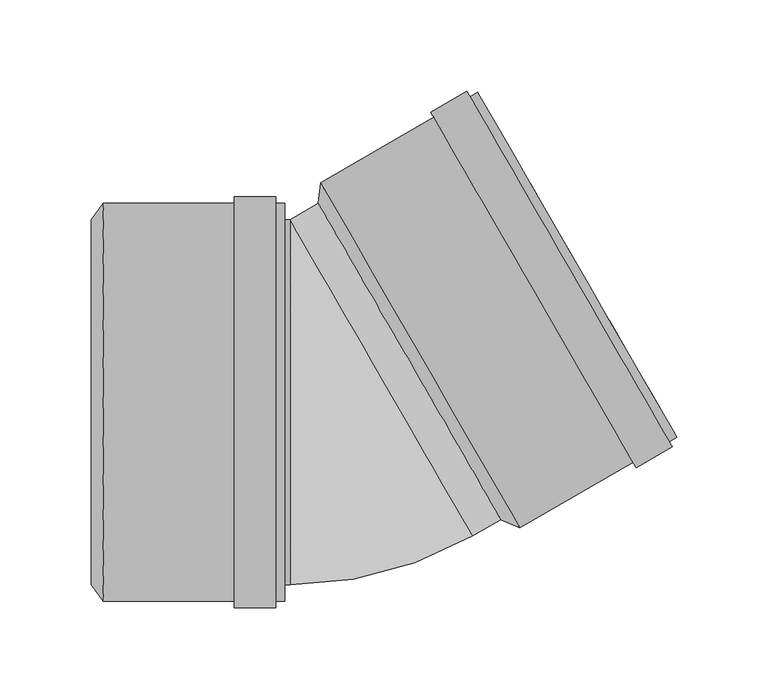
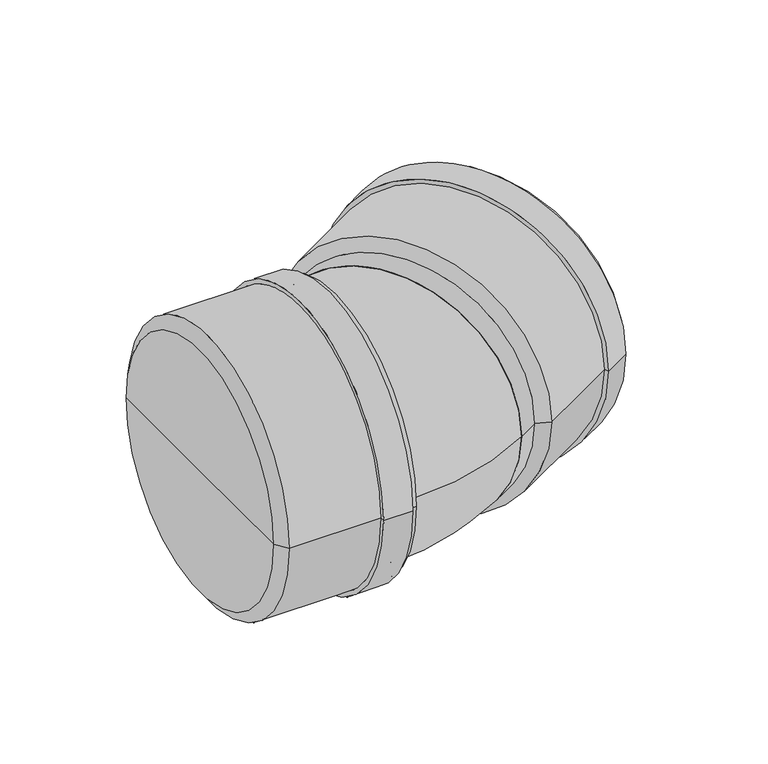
"""IFC4 building model written with IfcOpenShell, lengths in millimetres: pipe fitting geometry, pf_KGB : pf_KGB."""

import ifcopenshell
import ifcopenshell.guid

model = None  # the IFC model being written
_history = None  # IfcOwnerHistory: only IFC2X3 demands one
_inside = {}  # id of a spatial element -> (the spatial element, [elements in it])
_under = {}  # id of a project, library or spatial element -> (it, [spatial elements below it])
_declared = {}  # id of a project -> (the project, [libraries it declares])
_typed = {}  # id of a type object -> (the type object, [elements of that type])
_made_of = {}  # id of a material, layer set ... -> (it, [elements and type objects made of it])


def new_model(schema):
    """Start an empty IFC model of exactly this schema.

    Asked for "IFC4X3", IfcOpenShell would pick the latest addendum, in which some entities
    have other attributes; the version numbers below select the first issue.
    IFC2X3 requires an IfcOwnerHistory on every rooted entity: one is made here for all.
    """
    global model, _history
    if schema == "IFC4X3":
        model = ifcopenshell.file(schema_version=(4, 3, 0, 0))
    else:
        model = ifcopenshell.file(schema=schema)
    _inside.clear()
    _under.clear()
    _declared.clear()
    _typed.clear()
    _made_of.clear()
    _history = None
    if model.schema == "IFC2X3":
        org = make("IfcOrganization", Name="unknown")
        user = make(
            "IfcPersonAndOrganization",
            ThePerson=make("IfcPerson", FamilyName="unknown"),
            TheOrganization=org,
        )
        app = make(
            "IfcApplication",
            ApplicationDeveloper=org,
            Version="unknown",
            ApplicationFullName="unknown",
            ApplicationIdentifier="unknown",
        )
        _history = make(
            "IfcOwnerHistory",
            OwningUser=user,
            OwningApplication=app,
            ChangeAction="ADDED",
            CreationDate=0,
        )
    return model


def make(cls, **values):
    """One entity of the class cls with the attributes given. An attribute that is None is left unset."""
    return model.create_entity(
        cls, **{name: value for name, value in values.items() if value is not None}
    )


def rooted(cls, **values):
    """An entity with a GlobalId (a new one), such as an element, a storey or a relation."""
    return make(cls, GlobalId=ifcopenshell.guid.new(), OwnerHistory=_history, **values)


def si_unit(unit_type, name, prefix=None):
    """IfcSIUnit, for example si_unit("LENGTHUNIT", "METRE", prefix="MILLI")."""
    return make("IfcSIUnit", UnitType=unit_type, Prefix=prefix, Name=name)


def assignment(units):
    """IfcUnitAssignment: the units of a project."""
    return None if units is None else make("IfcUnitAssignment", Units=units)


def point(xyz):
    """IfcCartesianPoint."""
    return None if xyz is None else make("IfcCartesianPoint", Coordinates=xyz)


def direction(xyz):
    """IfcDirection."""
    return None if xyz is None else make("IfcDirection", DirectionRatios=xyz)


def frame(location, z_axis=None, x_axis=None):
    """IfcAxis2Placement3D, a coordinate frame: its origin and axes. An axis left out is left unset."""
    return make(
        "IfcAxis2Placement3D",
        Location=point(location),
        Axis=direction(z_axis),
        RefDirection=direction(x_axis),
    )


def frame_2d(location, x_axis=None):
    """IfcAxis2Placement2D, a coordinate frame in the plane: its origin and x axis."""
    return make(
        "IfcAxis2Placement2D", Location=point(location), RefDirection=direction(x_axis)
    )


def origin():
    """The frame at (0, 0, 0) with its axes left unset."""
    return frame((0.0, 0.0, 0.0))


def origin_2d():
    """The frame at (0, 0) in the plane with its x axis left unset."""
    return frame_2d((0.0, 0.0))


def place(relative_to, where):
    """IfcLocalPlacement: puts the frame where relative to a parent placement (None: the world)."""
    return make(
        "IfcLocalPlacement", PlacementRelTo=relative_to, RelativePlacement=where
    )


def context(
    kind, dimensions, precision=None, world=None, true_north=None, identifier=None
):
    """IfcGeometricRepresentationContext, for example the 3D "Model" context."""
    return make(
        "IfcGeometricRepresentationContext",
        ContextIdentifier=identifier,
        ContextType=kind,
        CoordinateSpaceDimension=dimensions,
        Precision=precision,
        WorldCoordinateSystem=world,
        TrueNorth=true_north,
    )


def project(units=None, contexts=None):
    """IfcProject with its units and contexts."""
    return rooted(
        "IfcProject",
        Name="project",
        RepresentationContexts=contexts,
        UnitsInContext=assignment(units),
    )


def spatial(cls, under=None, at=None, **own):
    """A site, building, storey or space (cls), placed at a placement, below another one or the project."""
    s = rooted(cls, ObjectPlacement=at, **own)
    if under is not None:
        _under.setdefault(under.id(), (under, []))[1].append(s)
    return s


def polyline(points):
    """IfcPolyline through the points."""
    return make("IfcPolyline", Points=[point(p) for p in points])


def circle_curve(where, radius):
    """IfcCircle in the frame where."""
    return make("IfcCircle", Position=where, Radius=radius)


def ellipse_curve(where, semi_axis1, semi_axis2):
    """IfcEllipse in the frame where."""
    return make(
        "IfcEllipse", Position=where, SemiAxis1=semi_axis1, SemiAxis2=semi_axis2
    )


def trimmed(basis, trim1, trim2, sense, master):
    """IfcTrimmedCurve: the piece of a basis curve between two trims."""
    return make(
        "IfcTrimmedCurve",
        BasisCurve=basis,
        Trim1=trim1,
        Trim2=trim2,
        SenseAgreement=sense,
        MasterRepresentation=master,
    )


def segment(curve, same_sense, transition):
    """IfcCompositeCurveSegment."""
    return make(
        "IfcCompositeCurveSegment",
        Transition=transition,
        SameSense=same_sense,
        ParentCurve=curve,
    )


def composite_curve(segments, self_intersect=None):
    """IfcCompositeCurve: segments joined end to end."""
    return make("IfcCompositeCurve", Segments=segments, SelfIntersect=self_intersect)


def outline(outer, holes=None, kind="AREA"):
    """IfcArbitraryClosedProfileDef: a profile drawn as a closed curve; with holes, ...WithVoids."""
    if holes is None:
        return make("IfcArbitraryClosedProfileDef", ProfileType=kind, OuterCurve=outer)
    return make(
        "IfcArbitraryProfileDefWithVoids",
        ProfileType=kind,
        OuterCurve=outer,
        InnerCurves=holes,
    )


def extrude(swept, where, along, depth):
    """IfcExtrudedAreaSolid: the profile swept, set in the frame where, extruded along a direction by depth."""
    return make(
        "IfcExtrudedAreaSolid",
        SweptArea=swept,
        Position=where,
        ExtrudedDirection=direction(along),
        Depth=depth,
    )


def shape(context_of_items, identifier, shape_type, items):
    """IfcShapeRepresentation: the items that make up one representation, for example the "Body"."""
    return make(
        "IfcShapeRepresentation",
        ContextOfItems=context_of_items,
        RepresentationIdentifier=identifier,
        RepresentationType=shape_type,
        Items=items,
    )


def source(mapping_origin, context_of_items, identifier, shape_type, items):
    """IfcRepresentationMap: a shape defined once, which mapped items show again and again."""
    return make(
        "IfcRepresentationMap",
        MappingOrigin=mapping_origin,
        MappedRepresentation=shape(context_of_items, identifier, shape_type, items),
    )


def transform(
    local_origin,
    x_axis=None,
    y_axis=None,
    z_axis=None,
    scale=None,
    scale2=None,
    scale3=None,
    uniform=True,
):
    """IfcCartesianTransformationOperator3D, or its non-uniform kind. x_axis, y_axis, z_axis: its Axis1, 2, 3."""
    if uniform:
        return make(
            "IfcCartesianTransformationOperator3D",
            Axis1=direction(x_axis),
            Axis2=direction(y_axis),
            LocalOrigin=point(local_origin),
            Scale=scale,
            Axis3=direction(z_axis),
        )
    return make(
        "IfcCartesianTransformationOperator3DnonUniform",
        Axis1=direction(x_axis),
        Axis2=direction(y_axis),
        LocalOrigin=point(local_origin),
        Scale=scale,
        Axis3=direction(z_axis),
        Scale2=scale2,
        Scale3=scale3,
    )


def mapped(mapping_source, mapping_target):
    """IfcMappedItem: shows the shape of a source again, moved by a transform."""
    return make(
        "IfcMappedItem", MappingSource=mapping_source, MappingTarget=mapping_target
    )


def made_of(thing, what):
    """Note that an element or type object is made of a material, layer set ...; save() writes the relation."""
    if what is not None:
        _made_of.setdefault(what.id(), (what, []))[1].append(thing)
    return thing


def element(
    cls,
    number,
    at=None,
    inside=None,
    cuts=None,
    type_object=None,
    material=None,
    context=None,
    identifier="Body",
    shape_type=None,
    held_by="IfcProductDefinitionShape",
    body=None,
    shapes=None,
    **own,
):
    """One element of the class cls, such as IfcWall. Its Tag is "e" and its number.

    at: its placement. inside: the storey or other place that contains it. cuts: it is an
    opening in that element (IfcRelVoidsElement). A single representation is given by context,
    identifier, shape_type and body (its items); several are given by shapes. held_by: the class
    of the entity that holds the representations. save() writes the other relations.
    """
    e = rooted(cls, Tag="e%d" % number, ObjectPlacement=at, **own)
    if body is not None:
        shapes = [shape(context, identifier, shape_type, body)]
    if shapes is not None:
        e.Representation = make(held_by, Representations=shapes)
    if inside is not None:
        _inside.setdefault(inside.id(), (inside, []))[1].append(e)
    if cuts is not None:
        rooted(
            "IfcRelVoidsElement", RelatingBuildingElement=cuts, RelatedOpeningElement=e
        )
    if type_object is not None:
        _typed.setdefault(type_object.id(), (type_object, []))[1].append(e)
    return made_of(e, material)


def aggregate(whole, parts):
    """IfcRelAggregates: a whole, such as a stair, and the parts it consists of."""
    return rooted("IfcRelAggregates", RelatingObject=whole, RelatedObjects=parts)


def save(model, path):
    """Write the relations noted so far, then the file.

    IfcRelAggregates (storeys below a building ...), IfcRelContainedInSpatialStructure (elements
    in a storey), IfcRelDefinesByType, IfcRelAssociatesMaterial and IfcRelDeclares: one each for
    every whole, place, type object, material and project.
    """
    for whole, parts in _under.values():
        aggregate(whole, parts)
    for where, things in _inside.values():
        rooted(
            "IfcRelContainedInSpatialStructure",
            RelatedElements=things,
            RelatingStructure=where,
        )
    for kind, things in _typed.values():
        rooted("IfcRelDefinesByType", RelatedObjects=things, RelatingType=kind)
    for what, things in _made_of.values():
        rooted("IfcRelAssociatesMaterial", RelatedObjects=things, RelatingMaterial=what)
    for by, libraries in _declared.values():
        rooted("IfcRelDeclares", RelatingContext=by, RelatedDefinitions=libraries)
    model.write(path)


def plane_surface(at):
    """IfcPlane: the flat surface through the origin of the frame at, square to its z axis."""
    return make("IfcPlane", Position=at)


def cylinder_surface(at, radius):
    """IfcCylindricalSurface: all points at the distance radius from the z axis of the frame at."""
    return make("IfcCylindricalSurface", Position=at, Radius=radius)


def revolved_surface(curve, axis_point, axis_direction):
    """IfcSurfaceOfRevolution: the curve turned about the line through axis_point along axis_direction."""
    return make(
        "IfcSurfaceOfRevolution",
        SweptCurve=make("IfcArbitraryOpenProfileDef", ProfileType="CURVE", Curve=curve),
        AxisPosition=make("IfcAxis1Placement", Location=point(axis_point), Axis=direction(axis_direction)),
    )


def advanced_brep(points, edges, surfaces, faces):
    """IfcAdvancedBrep: a solid bounded by faces that lie on surfaces and meet in shared edges.

    An edge is (start, end): straight between two places in points (the first is 0);
    or (start, end, curve); or (start, end, curve, False) where it runs against its curve.
    A face is (place in surfaces, loops), or (place, loops, False) where it looks against
    its surface's normal. A loop lists edges by number (the first is 1), with a minus sign
    where the edge is run from its end to its start. The first loop is the outer one.
    """
    corners = [point(p) for p in points]
    vertices = [make("IfcVertexPoint", VertexGeometry=c) for c in corners]
    made = []
    for start, end, *more in edges:
        made.append(
            make(
                "IfcEdgeCurve",
                EdgeStart=vertices[start],
                EdgeEnd=vertices[end],
                EdgeGeometry=more[0] if more else make("IfcPolyline", Points=[corners[start], corners[end]]),
                SameSense=more[1] if len(more) > 1 else True,
            )
        )
    hull = []
    for where, loops, *sense in faces:
        bounds = []
        for j, loop in enumerate(loops):
            ring = [make("IfcOrientedEdge", EdgeElement=made[abs(k) - 1], Orientation=k > 0) for k in loop]
            bounds.append(
                make(
                    "IfcFaceOuterBound" if j == 0 else "IfcFaceBound",
                    Bound=make("IfcEdgeLoop", EdgeList=ring),
                    Orientation=True,
                )
            )
        hull.append(make("IfcAdvancedFace", Bounds=bounds, FaceSurface=surfaces[where], SameSense=sense[0] if sense else True))
    return make("IfcAdvancedBrep", Outer=make("IfcClosedShell", CfsFaces=hull))


def pipe_fitting_30c0f1cb(model_context):
    return source(origin(), model_context, "Body", "SolidModel", [
        advanced_brep(
        [(88.7113355, -64.2525404, 0.0), (-11.2886645, 108.9525404, 0.0), (-10.0362942, 120.1833716, 0.0), (99.0637058, -68.7833716, 0.0), (38.7113355, 22.35, 0.0), (185.0600284, -19.1333716, 0.0), (75.9600284, 169.8333716, 0.0), (80.5100284, 161.9525404, 0.0), (180.5100284, -11.2525404, 0.0), (71.8031064, 167.4333716, 0.0), (180.9031064, -21.5333716, 0.0), (70.1031064, 170.3778579, 0.0), (182.6031064, -24.4778579, 0.0), (50.3577272, 158.9778579, 0.0), (162.8577272, -35.8778579, 0.0), (52.0577272, 156.0333716, 0.0), (161.1577272, -32.9333716, 0.0), (94.5137058, -60.9025404, 0.0), (-5.4862942, 112.3025404, 0.0), (44.5137058, 25.7, 0.0)],
        [
            (0, 1, circle_curve(frame((38.7113355, 22.35, 0.0), z_axis=(0.8660254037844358, 0.5000000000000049, 0.0), x_axis=(-0.5000000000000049, 0.8660254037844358, 0.0)), 100.0)),
            (1, 2),
            (2, 3, circle_curve(frame((44.5137058, 25.7, 0.0), z_axis=(-0.8660254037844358, -0.5000000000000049, 0.0), x_axis=(-0.5000000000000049, 0.8660254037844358, 0.0)), 109.1)),
            (3, 0),
            (1, 0, circle_curve(frame((38.7113355, 22.35, 0.0), z_axis=(0.8660254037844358, 0.5000000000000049, 0.0), x_axis=(-0.5000000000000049, 0.8660254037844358, 0.0)), 100.0)),
            (3, 2, circle_curve(frame((44.5137058, 25.7, 0.0), z_axis=(-0.8660254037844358, -0.5000000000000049, 0.0), x_axis=(-0.5000000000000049, 0.8660254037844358, 0.0)), 109.1)),
            (4, 1),
            (0, 4),
            (5, 6, circle_curve(frame((130.5100284, 75.35, 0.0), z_axis=(0.8660254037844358, 0.5000000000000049, 0.0), x_axis=(-0.5000000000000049, 0.8660254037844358, 0.0)), 109.1)),
            (6, 7),
            (7, 8, circle_curve(frame((130.5100284, 75.35, 0.0), z_axis=(-0.8660254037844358, -0.5000000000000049, 0.0), x_axis=(-0.5000000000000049, 0.8660254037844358, 0.0)), 100.0)),
            (8, 5),
            (9, 10, circle_curve(frame((126.3531064, 72.95, 0.0), z_axis=(0.8660254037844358, 0.5000000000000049, 0.0), x_axis=(-0.5000000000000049, 0.8660254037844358, 0.0)), 109.1)),
            (10, 5),
            (5, 6, circle_curve(frame((130.5100284, 75.35, 0.0), z_axis=(-0.8660254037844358, -0.5000000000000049, 0.0), x_axis=(-0.5000000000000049, 0.8660254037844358, 0.0)), 109.1)),
            (6, 9),
            (11, 12, circle_curve(frame((126.3531064, 72.95, 0.0), z_axis=(0.8660254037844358, 0.5000000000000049, 0.0), x_axis=(-0.5000000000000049, 0.8660254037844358, 0.0)), 112.5)),
            (12, 10),
            (9, 11),
            (13, 14, circle_curve(frame((106.6077272, 61.55, 0.0), z_axis=(0.8660254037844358, 0.5000000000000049, 0.0), x_axis=(-0.5000000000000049, 0.8660254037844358, 0.0)), 112.5)),
            (14, 12),
            (11, 13),
            (15, 16, circle_curve(frame((106.6077272, 61.55, 0.0), z_axis=(0.8660254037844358, 0.5000000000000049, 0.0), x_axis=(-0.5000000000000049, 0.8660254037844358, 0.0)), 109.1)),
            (16, 14),
            (13, 15),
            (8, 7, circle_curve(frame((130.5100284, 75.35, 0.0), z_axis=(-0.8660254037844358, -0.5000000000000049, 0.0), x_axis=(-0.5000000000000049, 0.8660254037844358, 0.0)), 100.0)),
            (10, 9, circle_curve(frame((126.3531064, 72.95, 0.0), z_axis=(0.8660254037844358, 0.5000000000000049, 0.0), x_axis=(-0.5000000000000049, 0.8660254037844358, 0.0)), 109.1)),
            (12, 11, circle_curve(frame((126.3531064, 72.95, 0.0), z_axis=(0.8660254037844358, 0.5000000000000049, 0.0), x_axis=(-0.5000000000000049, 0.8660254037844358, 0.0)), 112.5)),
            (14, 13, circle_curve(frame((106.6077272, 61.55, 0.0), z_axis=(0.8660254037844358, 0.5000000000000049, 0.0), x_axis=(-0.5000000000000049, 0.8660254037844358, 0.0)), 112.5)),
            (16, 15, circle_curve(frame((106.6077272, 61.55, 0.0), z_axis=(0.8660254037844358, 0.5000000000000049, 0.0), x_axis=(-0.5000000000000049, 0.8660254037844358, 0.0)), 109.1)),
            (2, 15),
            (16, 3),
            (17, 18, circle_curve(frame((44.5137058, 25.7, 0.0), z_axis=(0.8660254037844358, 0.5000000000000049, 0.0), x_axis=(-0.5000000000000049, 0.8660254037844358, 0.0)), 100.0)),
            (18, 19),
            (19, 17),
            (18, 17, circle_curve(frame((44.5137058, 25.7, 0.0), z_axis=(0.8660254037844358, 0.5000000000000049, 0.0), x_axis=(-0.5000000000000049, 0.8660254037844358, 0.0)), 100.0)),
            (7, 18),
            (17, 8),
        ],
        [
            revolved_surface(polyline([(-10.0362942, 120.1833716, 0.0), (-11.2886645, 108.9525404, 0.0)]), (38.7113355, 22.35, 0.0), (-0.8660254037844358, -0.5000000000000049, 0.0)),
            plane_surface(frame((38.7113355, 22.35, 0.0), z_axis=(-0.8660254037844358, -0.5000000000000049, 0.0), x_axis=(-0.5000000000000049, 0.8660254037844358, 0.0))),
            plane_surface(frame((130.5100284, 75.35, 0.0), z_axis=(0.8660254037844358, 0.5000000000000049, 0.0), x_axis=(-0.5000000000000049, 0.8660254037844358, 0.0))),
            cylinder_surface(frame((38.7113355, 22.35, 0.0), z_axis=(-0.8660254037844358, -0.5000000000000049, 0.0), x_axis=(-0.5000000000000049, 0.8660254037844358, 0.0)), 109.1),
            plane_surface(frame((126.3531064, 72.95, 0.0), z_axis=(0.8660254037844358, 0.5000000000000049, 0.0), x_axis=(-0.5000000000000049, 0.8660254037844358, 0.0))),
            cylinder_surface(frame((38.7113355, 22.35, 0.0), z_axis=(-0.8660254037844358, -0.5000000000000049, 0.0), x_axis=(-0.5000000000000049, 0.8660254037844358, 0.0)), 112.5),
            plane_surface(frame((106.6077272, 61.55, 0.0), z_axis=(-0.8660254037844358, -0.5000000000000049, 0.0), x_axis=(-0.5000000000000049, 0.8660254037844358, 0.0))),
            plane_surface(frame((44.5137058, 25.7, 0.0), z_axis=(0.8660254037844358, 0.5000000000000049, 0.0), x_axis=(-0.5000000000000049, 0.8660254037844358, 0.0))),
            revolved_surface(polyline([(-5.486294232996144, 112.30254041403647, 0.0), (80.51002838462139, 161.95254042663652, 0.0)]), (38.7113355, 22.35, 0.0), (-0.8660254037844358, -0.5000000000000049, 0.0)),
        ],
        [
            (0, [[1, 2, 3, 4]]),
            (0, [[5, -4, 6, -2]]),
            (1, [[7, -1, 8]]),
            (1, [[-8, -5, -7]]),
            (2, [[9, 10, 11, 12]]),
            (3, [[13, 14, 15, 16]]),
            (4, [[17, 18, -13, 19]]),
            (5, [[20, 21, -17, 22]]),
            (6, [[23, 24, -20, 25]]),
            (2, [[-15, -12, 26, -10]]),
            (3, [[27, -16, -9, -14]]),
            (4, [[28, -19, -27, -18]]),
            (5, [[29, -22, -28, -21]]),
            (6, [[30, -25, -29, -24]]),
            (3, [[-3, 31, -30, 32]]),
            (3, [[-6, -32, -23, -31]]),
            (7, [[33, 34, 35]]),
            (7, [[36, -35, -34]]),
            (8, [[-11, 37, -33, 38]]),
            (8, [[-26, -38, -36, -37]]),
        ],
    ),
        advanced_brep(
        [(-135.7, -100.0, 0.0), (-135.7, 100.0, 0.0), (-129.0, 109.1, 0.0), (-129.0, -109.1, 0.0), (-135.7, 0.0, 0.0), (-29.7, -109.1, 0.0), (-29.7, 109.1, 0.0), (-29.7, 100.0, 0.0), (-29.7, -100.0, 0.0), (-34.5, 109.1, 0.0), (-34.5, -109.1, 0.0), (-34.5, 112.5, 0.0), (-34.5, -112.5, 0.0), (-57.3, 112.5, 0.0), (-57.3, -112.5, 0.0), (-57.3, 109.1, 0.0), (-57.3, -109.1, 0.0), (-129.0, -100.0, 0.0), (-129.0, 100.0, 0.0), (-129.0, 0.0, 0.0)],
        [
            (0, 1, circle_curve(frame((-135.7, 0.0, 0.0), z_axis=(1.0, 0.0, 0.0), x_axis=(0.0, 1.0, 0.0)), 100.0)),
            (1, 2),
            (2, 3, circle_curve(frame((-129.0, 0.0, 0.0), z_axis=(-1.0, 0.0, 0.0), x_axis=(0.0, 1.0, 0.0)), 109.1)),
            (3, 0),
            (1, 0, circle_curve(frame((-135.7, 0.0, 0.0), z_axis=(1.0, 0.0, 0.0), x_axis=(0.0, 1.0, 0.0)), 100.0)),
            (3, 2, circle_curve(frame((-129.0, 0.0, 0.0), z_axis=(-1.0, 0.0, 0.0), x_axis=(0.0, 1.0, 0.0)), 109.1)),
            (4, 1),
            (0, 4),
            (5, 6, circle_curve(frame((-29.7, 0.0, 0.0), z_axis=(1.0, 0.0, 0.0), x_axis=(0.0, 1.0, 0.0)), 109.1)),
            (6, 7),
            (7, 8, circle_curve(frame((-29.7, 0.0, 0.0), z_axis=(-1.0, 0.0, 0.0), x_axis=(0.0, 1.0, 0.0)), 100.0)),
            (8, 5),
            (9, 10, circle_curve(frame((-34.5, 0.0, 0.0), z_axis=(1.0, 0.0, 0.0), x_axis=(0.0, 1.0, 0.0)), 109.1)),
            (10, 5),
            (5, 6, circle_curve(frame((-29.7, 0.0, 0.0), z_axis=(-1.0, 0.0, 0.0), x_axis=(0.0, 1.0, 0.0)), 109.1)),
            (6, 9),
            (11, 12, circle_curve(frame((-34.5, 0.0, 0.0), z_axis=(1.0, 0.0, 0.0), x_axis=(0.0, 1.0, 0.0)), 112.5)),
            (12, 10),
            (9, 11),
            (13, 14, circle_curve(frame((-57.3, 0.0, 0.0), z_axis=(1.0, 0.0, 0.0), x_axis=(0.0, 1.0, 0.0)), 112.5)),
            (14, 12),
            (11, 13),
            (15, 16, circle_curve(frame((-57.3, 0.0, 0.0), z_axis=(1.0, 0.0, 0.0), x_axis=(0.0, 1.0, 0.0)), 109.1)),
            (16, 14),
            (13, 15),
            (8, 7, circle_curve(frame((-29.7, 0.0, 0.0), z_axis=(-1.0, 0.0, 0.0), x_axis=(0.0, 1.0, 0.0)), 100.0)),
            (10, 9, circle_curve(frame((-34.5, 0.0, 0.0), z_axis=(1.0, 0.0, 0.0), x_axis=(0.0, 1.0, 0.0)), 109.1)),
            (12, 11, circle_curve(frame((-34.5, 0.0, 0.0), z_axis=(1.0, 0.0, 0.0), x_axis=(0.0, 1.0, 0.0)), 112.5)),
            (14, 13, circle_curve(frame((-57.3, 0.0, 0.0), z_axis=(1.0, 0.0, 0.0), x_axis=(0.0, 1.0, 0.0)), 112.5)),
            (16, 15, circle_curve(frame((-57.3, 0.0, 0.0), z_axis=(1.0, 0.0, 0.0), x_axis=(0.0, 1.0, 0.0)), 109.1)),
            (2, 15),
            (16, 3),
            (17, 18, circle_curve(frame((-129.0, 0.0, 0.0), z_axis=(1.0, 0.0, 0.0), x_axis=(0.0, 1.0, 0.0)), 100.0)),
            (18, 19),
            (19, 17),
            (18, 17, circle_curve(frame((-129.0, 0.0, 0.0), z_axis=(1.0, 0.0, 0.0), x_axis=(0.0, 1.0, 0.0)), 100.0)),
            (7, 18),
            (17, 8),
        ],
        [
            revolved_surface(polyline([(-129.0, 109.1, 0.0), (-135.7, 100.0, 0.0)]), (-135.7, 0.0, 0.0), (-1.0, 0.0, 0.0)),
            plane_surface(frame((-135.7, 0.0, 0.0), z_axis=(-1.0, 0.0, 0.0), x_axis=(0.0, 1.0, 0.0))),
            plane_surface(frame((-29.7, 0.0, 0.0), z_axis=(1.0, 0.0, 0.0), x_axis=(0.0, 1.0, 0.0))),
            cylinder_surface(frame((-135.7, 0.0, 0.0), z_axis=(-1.0, 0.0, 0.0), x_axis=(0.0, 1.0, 0.0)), 109.1),
            plane_surface(frame((-34.5, 0.0, 0.0), z_axis=(1.0, 0.0, 0.0), x_axis=(0.0, 1.0, 0.0))),
            cylinder_surface(frame((-135.7, 0.0, 0.0), z_axis=(-1.0, 0.0, 0.0), x_axis=(0.0, 1.0, 0.0)), 112.5),
            plane_surface(frame((-57.3, 0.0, 0.0), z_axis=(-1.0, 0.0, 0.0), x_axis=(0.0, 1.0, 0.0))),
            plane_surface(frame((-129.0, 0.0, 0.0), z_axis=(1.0, 0.0, 0.0), x_axis=(0.0, 1.0, 0.0))),
            revolved_surface(polyline([(-129.0, 100.0, 0.0), (-29.700000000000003, 100.0, 0.0)]), (-135.7, 0.0, 0.0), (-1.0, 0.0, 0.0)),
        ],
        [
            (0, [[1, 2, 3, 4]]),
            (0, [[5, -4, 6, -2]]),
            (1, [[7, -1, 8]]),
            (1, [[-8, -5, -7]]),
            (2, [[9, 10, 11, 12]]),
            (3, [[13, 14, 15, 16]]),
            (4, [[17, 18, -13, 19]]),
            (5, [[20, 21, -17, 22]]),
            (6, [[23, 24, -20, 25]]),
            (2, [[-15, -12, 26, -10]]),
            (3, [[27, -16, -9, -14]]),
            (4, [[28, -19, -27, -18]]),
            (5, [[29, -22, -28, -21]]),
            (6, [[30, -25, -29, -24]]),
            (3, [[-3, 31, -30, 32]]),
            (3, [[-6, -32, -23, -31]]),
            (7, [[33, 34, 35]]),
            (7, [[36, -35, -34]]),
            (8, [[-11, 37, -33, 38]]),
            (8, [[-26, -38, -36, -37]]),
        ],
    ),
        extrude(outline(composite_curve([segment(trimmed(circle_curve(origin_2d(), 100.0), [point((0.0, -100.0))], [point((0.0, 100.0))], False, "CARTESIAN"), True, "CONTINUOUS"), segment(trimmed(circle_curve(origin_2d(), 100.0), [point((0.0, 100.0))], [point((0.0, -100.0))], False, "CARTESIAN"), True, "CONTINUOUS")], self_intersect=False)), frame((23.2050808, 13.3974596, 0.0), z_axis=(0.8660254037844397, 0.49999999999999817, 0.0), x_axis=(0.0, 0.0, 1.0)), (0.0, 0.0, 1.0), 17.9050808),
        extrude(outline(composite_curve([segment(trimmed(circle_curve(origin_2d(), 100.0), [point((-100.0, 0.0))], [point((100.0, 0.0))], False, "CARTESIAN"), True, "CONTINUOUS"), segment(trimmed(circle_curve(origin_2d(), 100.0), [point((100.0, 0.0))], [point((-100.0, 0.0))], False, "CARTESIAN"), True, "CONTINUOUS")], self_intersect=False)), frame((-129.0, 0.0, 0.0), z_axis=(1.0, 0.0, 0.0), x_axis=(0.0, 1.0, 0.0)), (0.0, 0.0, 1.0), 102.2050808),
        advanced_brep(
        [(-26.7949192, -100.0, 0.0), (-26.7949192, 100.0, 0.0), (73.2050808, -73.2050808, 0.0)],
        [
            (0, 1, circle_curve(frame((-26.7949192, 0.0, 0.0), z_axis=(-1.0, 0.0, 0.0), x_axis=(0.0, 1.0, 0.0)), 100.0)),
            (1, 0, circle_curve(frame((-26.7949192, 0.0, 0.0), z_axis=(-1.0, 0.0, 0.0), x_axis=(0.0, 1.0, 0.0)), 100.0)),
            (2, 1, circle_curve(frame((23.2050808, 13.3974596, 0.0), z_axis=(0.8660254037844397, 0.49999999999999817, 0.0), x_axis=(-0.49999999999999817, 0.8660254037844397, 0.0)), 100.0)),
            (1, 2, circle_curve(frame((23.2050808, 13.3974596, 0.0), z_axis=(0.8660254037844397, 0.49999999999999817, 0.0), x_axis=(-0.49999999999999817, 0.8660254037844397, 0.0)), 100.0)),
            (2, 0, circle_curve(frame((-26.7949192, 100.0, 0.0), z_axis=(0.0, 0.0, -1.0), x_axis=(0.0, -1.0, 0.0)), 200.0)),
        ],
        [
            plane_surface(frame((-26.7949192, 100.0, -14.8), z_axis=(-1.0, 0.0, 0.0), x_axis=(0.0, -1.0, 0.0))),
            plane_surface(frame((-26.7949192, 100.0, -14.8), z_axis=(0.8660254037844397, 0.4999999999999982, 0.0), x_axis=(0.4999999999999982, -0.8660254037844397, 0.0))),
            revolved_surface(trimmed(ellipse_curve(frame((-26.7949192, 0.0, 0.0), z_axis=(1.0, 0.0, 0.0), x_axis=(0.0, 1.0, 0.0)), 100.0, 100.0), [point((-26.7949192, -100.0, 0.0))], [point((-26.7949192, 100.0, 0.0))], True, "CARTESIAN"), (-26.7949192, 100.0, -14.8), (0.0, 0.0, -1.0)),
            revolved_surface(trimmed(ellipse_curve(frame((-26.7949192, 0.0, 0.0), z_axis=(1.0, 0.0, 0.0), x_axis=(0.0, 1.0, 0.0)), 100.0, 100.0), [point((-26.7949192, 100.0, 0.0))], [point((-26.7949192, -100.0, 0.0))], True, "CARTESIAN"), (-26.7949192, 100.0, -14.8), (0.0, 0.0, -1.0)),
        ],
        [
            (0, [[1, 2]]),
            (1, [[3, 4]]),
            (2, [[5, -2, -3]]),
            (3, [[-1, -5, -4]]),
        ],
    ),
    ])


if __name__ == "__main__":
    model = new_model("IFC4")
    model_context = context("Model", 3, world=origin())
    ifc_project = project(units=[si_unit("LENGTHUNIT", "METRE", prefix="MILLI")], contexts=[model_context])
    site = spatial("IfcSite", under=ifc_project)
    building = spatial("IfcBuilding", under=site)
    placement = place(None, origin())
    pipe_fitting_shape = pipe_fitting_30c0f1cb(model_context)
    element("IfcPipeFitting", 1, ObjectType="pf_KGB : pf_KGB", at=placement, inside=building, context=model_context, shape_type="MappedRepresentation", body=[
        mapped(pipe_fitting_shape, transform((0.0, 0.0, 0.0), x_axis=(1.0, 0.0, 0.0), y_axis=(0.0, 1.0, 0.0), z_axis=(0.0, 0.0, 1.0))),
    ])
    save(model, "model.ifc")
